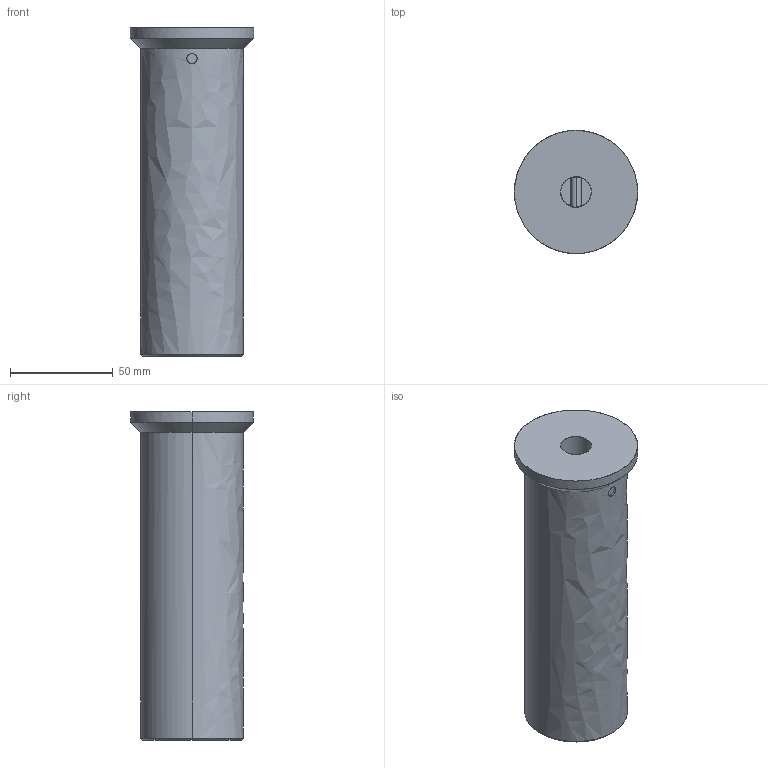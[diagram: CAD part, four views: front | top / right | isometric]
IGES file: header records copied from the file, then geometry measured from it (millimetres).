
Global section: file name: E:\UnigraphicsGraphicData\MISUMI_PRESS-PARTS\IGES\3d_lcup50-160_01351_r00.igs; native system: NX V5.0; preprocessor: UGS NX IGES V5.0; author: MISUMI; date: 20110105.161157; units: millimetre
Bounding box: 60 x 60 x 160 mm (x, y, z)
Surface area: 32602.4 mm2 (no closed solid volume)
Topology: 0 solids, 0 shells, 19 faces, 146 edges, 146 vertices
Faces by surface type: bspline 19
